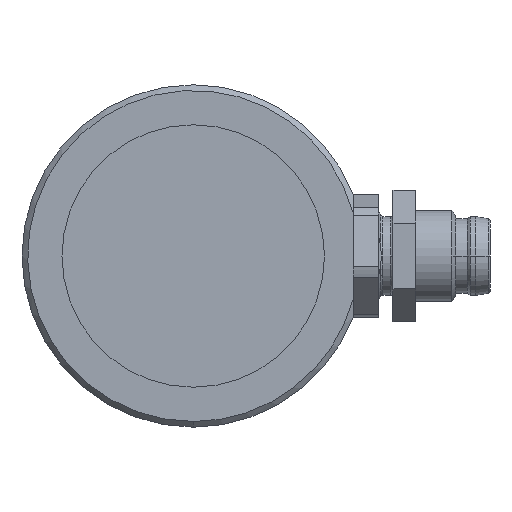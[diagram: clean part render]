
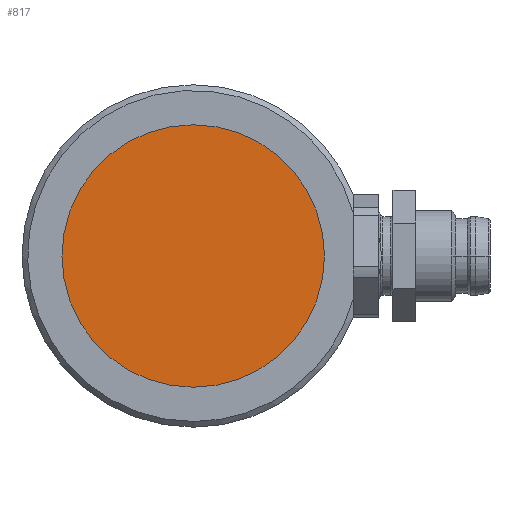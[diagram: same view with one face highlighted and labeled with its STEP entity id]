
A CAD part, left-side view. The second image highlights one B-rep face of the part: STEP entity #817.
In plain terms, the highlighted planar face has unit normal (-1, 0, 0).
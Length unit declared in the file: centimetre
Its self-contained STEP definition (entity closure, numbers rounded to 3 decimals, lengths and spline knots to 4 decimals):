
#778=CARTESIAN_POINT('',(-1.24,0.,1.15));
#779=VERTEX_POINT('',#778);
#786=CARTESIAN_POINT('',(-1.24,0.,-1.15));
#787=VERTEX_POINT('',#786);
#788=CARTESIAN_POINT('',(-1.24,0.,0.));
#789=DIRECTION('',(-1.,-0.,-0.));
#790=DIRECTION('',(0.,0.,-1.));
#791=AXIS2_PLACEMENT_3D('',#788,#789,#790);
#792=CIRCLE('',#791,1.15);
#793=EDGE_CURVE('',#787,#779,#792,.T.);
#795=CARTESIAN_POINT('',(-1.24,0.,0.));
#796=DIRECTION('',(-1.,-0.,-0.));
#797=DIRECTION('',(0.,0.,-1.));
#798=AXIS2_PLACEMENT_3D('',#795,#796,#797);
#799=CIRCLE('',#798,1.15);
#800=EDGE_CURVE('',#779,#787,#799,.T.);
#808=CARTESIAN_POINT('',(-1.24,0.,0.));
#809=DIRECTION('',(1.,0.,0.));
#810=DIRECTION('',(0.,0.,-1.));
#811=AXIS2_PLACEMENT_3D('',#808,#809,#810);
#812=PLANE('',#811);
#813=ORIENTED_EDGE('',*,*,#793,.T.);
#814=ORIENTED_EDGE('',*,*,#800,.T.);
#815=EDGE_LOOP('',(#813,#814));
#816=FACE_BOUND('',#815,.T.);
#817=ADVANCED_FACE('',(#816),#812,.F.);
